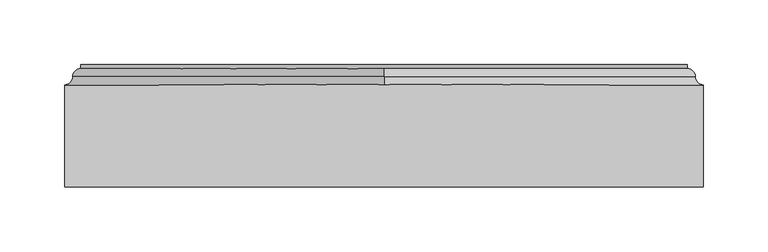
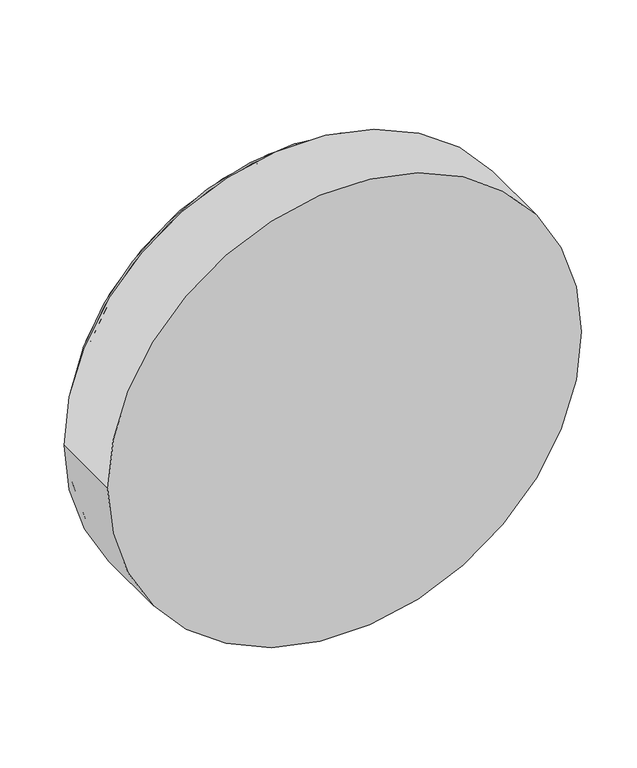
"""IFC4 building model written with IfcOpenShell, lengths in millimetres: proxy geometry, CAMBRIDGE^TABLE 3_2 BASE BOAT-PLINTH SOLID."""

import ifcopenshell
import ifcopenshell.guid

model = None  # the IFC model being written
_history = None  # IfcOwnerHistory: only IFC2X3 demands one
_inside = {}  # id of a spatial element -> (the spatial element, [elements in it])
_under = {}  # id of a project, library or spatial element -> (it, [spatial elements below it])
_declared = {}  # id of a project -> (the project, [libraries it declares])
_typed = {}  # id of a type object -> (the type object, [elements of that type])
_made_of = {}  # id of a material, layer set ... -> (it, [elements and type objects made of it])


def new_model(schema):
    """Start an empty IFC model of exactly this schema.

    Asked for "IFC4X3", IfcOpenShell would pick the latest addendum, in which some entities
    have other attributes; the version numbers below select the first issue.
    IFC2X3 requires an IfcOwnerHistory on every rooted entity: one is made here for all.
    """
    global model, _history
    if schema == "IFC4X3":
        model = ifcopenshell.file(schema_version=(4, 3, 0, 0))
    else:
        model = ifcopenshell.file(schema=schema)
    _inside.clear()
    _under.clear()
    _declared.clear()
    _typed.clear()
    _made_of.clear()
    _history = None
    if model.schema == "IFC2X3":
        org = make("IfcOrganization", Name="unknown")
        user = make(
            "IfcPersonAndOrganization",
            ThePerson=make("IfcPerson", FamilyName="unknown"),
            TheOrganization=org,
        )
        app = make(
            "IfcApplication",
            ApplicationDeveloper=org,
            Version="unknown",
            ApplicationFullName="unknown",
            ApplicationIdentifier="unknown",
        )
        _history = make(
            "IfcOwnerHistory",
            OwningUser=user,
            OwningApplication=app,
            ChangeAction="ADDED",
            CreationDate=0,
        )
    return model


def make(cls, **values):
    """One entity of the class cls with the attributes given. An attribute that is None is left unset."""
    return model.create_entity(
        cls, **{name: value for name, value in values.items() if value is not None}
    )


def rooted(cls, **values):
    """An entity with a GlobalId (a new one), such as an element, a storey or a relation."""
    return make(cls, GlobalId=ifcopenshell.guid.new(), OwnerHistory=_history, **values)


def si_unit(unit_type, name, prefix=None):
    """IfcSIUnit, for example si_unit("LENGTHUNIT", "METRE", prefix="MILLI")."""
    return make("IfcSIUnit", UnitType=unit_type, Prefix=prefix, Name=name)


def assignment(units):
    """IfcUnitAssignment: the units of a project."""
    return None if units is None else make("IfcUnitAssignment", Units=units)


def point(xyz):
    """IfcCartesianPoint."""
    return None if xyz is None else make("IfcCartesianPoint", Coordinates=xyz)


def direction(xyz):
    """IfcDirection."""
    return None if xyz is None else make("IfcDirection", DirectionRatios=xyz)


def frame(location, z_axis=None, x_axis=None):
    """IfcAxis2Placement3D, a coordinate frame: its origin and axes. An axis left out is left unset."""
    return make(
        "IfcAxis2Placement3D",
        Location=point(location),
        Axis=direction(z_axis),
        RefDirection=direction(x_axis),
    )


def origin():
    """The frame at (0, 0, 0) with its axes left unset."""
    return frame((0.0, 0.0, 0.0))


def place(relative_to, where):
    """IfcLocalPlacement: puts the frame where relative to a parent placement (None: the world)."""
    return make(
        "IfcLocalPlacement", PlacementRelTo=relative_to, RelativePlacement=where
    )


def context(
    kind, dimensions, precision=None, world=None, true_north=None, identifier=None
):
    """IfcGeometricRepresentationContext, for example the 3D "Model" context."""
    return make(
        "IfcGeometricRepresentationContext",
        ContextIdentifier=identifier,
        ContextType=kind,
        CoordinateSpaceDimension=dimensions,
        Precision=precision,
        WorldCoordinateSystem=world,
        TrueNorth=true_north,
    )


def project(units=None, contexts=None):
    """IfcProject with its units and contexts."""
    return rooted(
        "IfcProject",
        Name="project",
        RepresentationContexts=contexts,
        UnitsInContext=assignment(units),
    )


def spatial(cls, under=None, at=None, **own):
    """A site, building, storey or space (cls), placed at a placement, below another one or the project."""
    s = rooted(cls, ObjectPlacement=at, **own)
    if under is not None:
        _under.setdefault(under.id(), (under, []))[1].append(s)
    return s


def circle_curve(where, radius):
    """IfcCircle in the frame where."""
    return make("IfcCircle", Position=where, Radius=radius)


def ellipse_curve(where, semi_axis1, semi_axis2):
    """IfcEllipse in the frame where."""
    return make(
        "IfcEllipse", Position=where, SemiAxis1=semi_axis1, SemiAxis2=semi_axis2
    )


def trimmed(basis, trim1, trim2, sense, master):
    """IfcTrimmedCurve: the piece of a basis curve between two trims."""
    return make(
        "IfcTrimmedCurve",
        BasisCurve=basis,
        Trim1=trim1,
        Trim2=trim2,
        SenseAgreement=sense,
        MasterRepresentation=master,
    )


def shape(context_of_items, identifier, shape_type, items):
    """IfcShapeRepresentation: the items that make up one representation, for example the "Body"."""
    return make(
        "IfcShapeRepresentation",
        ContextOfItems=context_of_items,
        RepresentationIdentifier=identifier,
        RepresentationType=shape_type,
        Items=items,
    )


def source(mapping_origin, context_of_items, identifier, shape_type, items):
    """IfcRepresentationMap: a shape defined once, which mapped items show again and again."""
    return make(
        "IfcRepresentationMap",
        MappingOrigin=mapping_origin,
        MappedRepresentation=shape(context_of_items, identifier, shape_type, items),
    )


def transform(
    local_origin,
    x_axis=None,
    y_axis=None,
    z_axis=None,
    scale=None,
    scale2=None,
    scale3=None,
    uniform=True,
):
    """IfcCartesianTransformationOperator3D, or its non-uniform kind. x_axis, y_axis, z_axis: its Axis1, 2, 3."""
    if uniform:
        return make(
            "IfcCartesianTransformationOperator3D",
            Axis1=direction(x_axis),
            Axis2=direction(y_axis),
            LocalOrigin=point(local_origin),
            Scale=scale,
            Axis3=direction(z_axis),
        )
    return make(
        "IfcCartesianTransformationOperator3DnonUniform",
        Axis1=direction(x_axis),
        Axis2=direction(y_axis),
        LocalOrigin=point(local_origin),
        Scale=scale,
        Axis3=direction(z_axis),
        Scale2=scale2,
        Scale3=scale3,
    )


def mapped(mapping_source, mapping_target):
    """IfcMappedItem: shows the shape of a source again, moved by a transform."""
    return make(
        "IfcMappedItem", MappingSource=mapping_source, MappingTarget=mapping_target
    )


def made_of(thing, what):
    """Note that an element or type object is made of a material, layer set ...; save() writes the relation."""
    if what is not None:
        _made_of.setdefault(what.id(), (what, []))[1].append(thing)
    return thing


def element(
    cls,
    number,
    at=None,
    inside=None,
    cuts=None,
    type_object=None,
    material=None,
    context=None,
    identifier="Body",
    shape_type=None,
    held_by="IfcProductDefinitionShape",
    body=None,
    shapes=None,
    **own,
):
    """One element of the class cls, such as IfcWall. Its Tag is "e" and its number.

    at: its placement. inside: the storey or other place that contains it. cuts: it is an
    opening in that element (IfcRelVoidsElement). A single representation is given by context,
    identifier, shape_type and body (its items); several are given by shapes. held_by: the class
    of the entity that holds the representations. save() writes the other relations.
    """
    e = rooted(cls, Tag="e%d" % number, ObjectPlacement=at, **own)
    if body is not None:
        shapes = [shape(context, identifier, shape_type, body)]
    if shapes is not None:
        e.Representation = make(held_by, Representations=shapes)
    if inside is not None:
        _inside.setdefault(inside.id(), (inside, []))[1].append(e)
    if cuts is not None:
        rooted(
            "IfcRelVoidsElement", RelatingBuildingElement=cuts, RelatedOpeningElement=e
        )
    if type_object is not None:
        _typed.setdefault(type_object.id(), (type_object, []))[1].append(e)
    return made_of(e, material)


def aggregate(whole, parts):
    """IfcRelAggregates: a whole, such as a stair, and the parts it consists of."""
    return rooted("IfcRelAggregates", RelatingObject=whole, RelatedObjects=parts)


def save(model, path):
    """Write the relations noted so far, then the file.

    IfcRelAggregates (storeys below a building ...), IfcRelContainedInSpatialStructure (elements
    in a storey), IfcRelDefinesByType, IfcRelAssociatesMaterial and IfcRelDeclares: one each for
    every whole, place, type object, material and project.
    """
    for whole, parts in _under.values():
        aggregate(whole, parts)
    for where, things in _inside.values():
        rooted(
            "IfcRelContainedInSpatialStructure",
            RelatedElements=things,
            RelatingStructure=where,
        )
    for kind, things in _typed.values():
        rooted("IfcRelDefinesByType", RelatedObjects=things, RelatingType=kind)
    for what, things in _made_of.values():
        rooted("IfcRelAssociatesMaterial", RelatedObjects=things, RelatingMaterial=what)
    for by, libraries in _declared.values():
        rooted("IfcRelDeclares", RelatingContext=by, RelatedDefinitions=libraries)
    model.write(path)


def plane_surface(at):
    """IfcPlane: the flat surface through the origin of the frame at, square to its z axis."""
    return make("IfcPlane", Position=at)


def cylinder_surface(at, radius):
    """IfcCylindricalSurface: all points at the distance radius from the z axis of the frame at."""
    return make("IfcCylindricalSurface", Position=at, Radius=radius)


def revolved_surface(curve, axis_point, axis_direction):
    """IfcSurfaceOfRevolution: the curve turned about the line through axis_point along axis_direction."""
    return make(
        "IfcSurfaceOfRevolution",
        SweptCurve=make("IfcArbitraryOpenProfileDef", ProfileType="CURVE", Curve=curve),
        AxisPosition=make("IfcAxis1Placement", Location=point(axis_point), Axis=direction(axis_direction)),
    )


def advanced_brep(points, edges, surfaces, faces):
    """IfcAdvancedBrep: a solid bounded by faces that lie on surfaces and meet in shared edges.

    An edge is (start, end): straight between two places in points (the first is 0);
    or (start, end, curve); or (start, end, curve, False) where it runs against its curve.
    A face is (place in surfaces, loops), or (place, loops, False) where it looks against
    its surface's normal. A loop lists edges by number (the first is 1), with a minus sign
    where the edge is run from its end to its start. The first loop is the outer one.
    """
    corners = [point(p) for p in points]
    vertices = [make("IfcVertexPoint", VertexGeometry=c) for c in corners]
    made = []
    for start, end, *more in edges:
        made.append(
            make(
                "IfcEdgeCurve",
                EdgeStart=vertices[start],
                EdgeEnd=vertices[end],
                EdgeGeometry=more[0] if more else make("IfcPolyline", Points=[corners[start], corners[end]]),
                SameSense=more[1] if len(more) > 1 else True,
            )
        )
    hull = []
    for where, loops, *sense in faces:
        bounds = []
        for j, loop in enumerate(loops):
            ring = [make("IfcOrientedEdge", EdgeElement=made[abs(k) - 1], Orientation=k > 0) for k in loop]
            bounds.append(
                make(
                    "IfcFaceOuterBound" if j == 0 else "IfcFaceBound",
                    Bound=make("IfcEdgeLoop", EdgeList=ring),
                    Orientation=True,
                )
            )
        hull.append(make("IfcAdvancedFace", Bounds=bounds, FaceSurface=surfaces[where], SameSense=sense[0] if sense else True))
    return make("IfcAdvancedBrep", Outer=make("IfcClosedShell", CfsFaces=hull))


def generic_models_16b2119f(model_context):
    return source(origin(), model_context, "Body", "AdvancedBrep", [
        advanced_brep(
        [(-514.35, -631.825, -685.8), (-514.35, -711.2, -685.8), (-1009.65, -711.2, -685.8), (-1009.65, -631.825, -685.8), (-762.0, -631.825, -933.45), (-762.0, -631.825, -438.15), (-762.0, -625.475, -444.5), (-762.0, -625.475, -927.1), (-762.0, -619.125, -450.85), (-520.7, -625.475, -685.8), (-762.0, -619.125, -920.75), (-527.05, -619.125, -685.8), (-527.05, -615.95, -685.8), (-996.95, -619.125, -685.8), (-996.95, -615.95, -685.8)],
        [
            (0, 1),
            (1, 2, circle_curve(frame((-762.0, -711.2, -685.8), z_axis=(0.0, 1.0, 0.0), x_axis=(1.0, 0.0, 0.0)), 247.65)),
            (2, 3),
            (3, 4, circle_curve(frame((-762.0, -631.825, -685.8), z_axis=(0.0, -1.0, 0.0), x_axis=(1.0, 0.0, 0.0)), 247.65)),
            (4, 0, circle_curve(frame((-762.0, -631.825, -685.8), z_axis=(0.0, -1.0, 0.0), x_axis=(1.0, 0.0, 0.0)), 247.65)),
            (5, 6, circle_curve(frame((-762.0, -625.475, -438.15), z_axis=(1.0, 0.0, 0.0), x_axis=(0.0, 0.0, 1.0)), 6.35)),
            (6, 7, circle_curve(frame((-762.0, -625.475, -685.8), z_axis=(0.0, -1.0, 0.0), x_axis=(0.0, 0.0, -1.0)), 241.3)),
            (7, 4, circle_curve(frame((-762.0, -625.475, -933.45), z_axis=(1.0, 0.0, 0.0), x_axis=(0.0, 0.0, -1.0)), 6.35)),
            (3, 5, circle_curve(frame((-762.0, -631.825, -685.8), z_axis=(0.0, 1.0, 0.0), x_axis=(0.0, 0.0, -1.0)), 247.65)),
            (8, 6, circle_curve(frame((-762.0, -625.475, -450.85), z_axis=(1.0, 0.0, 0.0), x_axis=(0.0, 0.0, 1.0)), 6.35)),
            (6, 9, circle_curve(frame((-762.0, -625.475, -685.8), z_axis=(0.0, 1.0, 0.0), x_axis=(0.0, 0.0, 1.0)), 241.3)),
            (9, 7, circle_curve(frame((-762.0, -625.475, -685.8), z_axis=(0.0, 1.0, 0.0), x_axis=(0.0, 0.0, 1.0)), 241.3)),
            (7, 10, circle_curve(frame((-762.0, -625.475, -920.75), z_axis=(1.0, 0.0, 0.0), x_axis=(0.0, 0.0, -1.0)), 6.35)),
            (10, 11, circle_curve(frame((-762.0, -619.125, -685.8), z_axis=(0.0, -1.0, 0.0), x_axis=(0.0, 0.0, 1.0)), 234.95)),
            (11, 8, circle_curve(frame((-762.0, -619.125, -685.8), z_axis=(0.0, -1.0, 0.0), x_axis=(0.0, 0.0, 1.0)), 234.95)),
            (12, 11),
            (10, 13, circle_curve(frame((-762.0, -619.125, -685.8), z_axis=(0.0, 1.0, 0.0), x_axis=(1.0, 0.0, 0.0)), 234.95)),
            (13, 14),
            (14, 12, circle_curve(frame((-762.0, -615.95, -685.8), z_axis=(0.0, -1.0, 0.0), x_axis=(1.0, 0.0, 0.0)), 234.95)),
            (1, 2, circle_curve(frame((-762.0, -711.2, -685.8), z_axis=(0.0, -1.0, 0.0), x_axis=(1.0, 0.0, 0.0)), 247.65)),
            (14, 12, circle_curve(frame((-762.0, -615.95, -685.8), z_axis=(0.0, 1.0, 0.0), x_axis=(1.0, 0.0, 0.0)), 234.95)),
            (13, 8, circle_curve(frame((-762.0, -619.125, -685.8), z_axis=(0.0, 1.0, 0.0), x_axis=(1.0, 0.0, 0.0)), 234.95)),
            (5, 0, circle_curve(frame((-762.0, -631.825, -685.8), z_axis=(0.0, 1.0, 0.0), x_axis=(0.0, 0.0, 1.0)), 247.65)),
        ],
        [
            cylinder_surface(frame((-762.0, -635.0, -685.8), z_axis=(0.0, -1.0, 0.0), x_axis=(1.0, 0.0, 0.0)), 247.65),
            revolved_surface(trimmed(ellipse_curve(frame((-762.0, -625.475, -933.45), z_axis=(-1.0, 0.0, 0.0), x_axis=(0.0, 0.0, -1.0)), 6.35, 6.35), [point((-762.0, -631.825, -933.45))], [point((-762.0, -625.475, -927.1))], True, "CARTESIAN"), (-762.0, -625.475, -685.8), (0.0, 1.0, 0.0)),
            revolved_surface(trimmed(ellipse_curve(frame((-762.0, -625.475, -450.85), z_axis=(-1.0, 0.0, 0.0), x_axis=(0.0, 0.0, 1.0)), 6.35, 6.35), [point((-762.0, -625.475, -444.5))], [point((-762.0, -619.125, -450.85))], True, "CARTESIAN"), (-762.0, -625.475, -685.8), (0.0, 1.0, 0.0)),
            cylinder_surface(frame((-762.0, -617.5375, -685.8), z_axis=(0.0, 1.0, 0.0), x_axis=(1.0, 0.0, 0.0)), 234.95),
            plane_surface(frame((-762.0, -711.2, -685.8), z_axis=(0.0, -1.0, 0.0), x_axis=(0.0, 0.0, -1.0))),
            plane_surface(frame((-762.0, -615.95, -685.8), z_axis=(0.0, 1.0, 0.0), x_axis=(0.0, 0.0, -1.0))),
            revolved_surface(trimmed(ellipse_curve(frame((-762.0, -625.475, -920.75), z_axis=(1.0, 0.0, 0.0), x_axis=(0.0, 0.0, -1.0)), 6.35, 6.35), [point((-762.0, -625.475, -927.1))], [point((-762.0, -619.125, -920.75))], True, "CARTESIAN"), (-762.0, -625.475, -685.8), (0.0, 1.0, 0.0)),
            revolved_surface(trimmed(ellipse_curve(frame((-762.0, -625.475, -438.15), z_axis=(1.0, 0.0, 0.0), x_axis=(0.0, 0.0, 1.0)), 6.35, 6.35), [point((-762.0, -631.825, -438.15))], [point((-762.0, -625.475, -444.5))], True, "CARTESIAN"), (-762.0, -625.475, -685.8), (0.0, 1.0, 0.0)),
        ],
        [
            (0, [[1, 2, 3, 4, 5]]),
            (1, [[6, 7, 8, -4, 9]]),
            (2, [[10, 11, 12, 13, 14, 15]]),
            (3, [[16, -14, 17, 18, 19]]),
            (4, [[20, -2]]),
            (5, [[-19, 21]]),
            (3, [[-16, -21, -18, 22, -15]]),
            (6, [[-10, -22, -17, -13, -7]]),
            (7, [[-6, 23, -5, -8, -12, -11]]),
            (0, [[-1, -23, -9, -3, -20]]),
        ],
    ),
    ])


if __name__ == "__main__":
    model = new_model("IFC4")
    model_context = context("Model", 3, world=origin())
    ifc_project = project(units=[si_unit("LENGTHUNIT", "METRE", prefix="MILLI")], contexts=[model_context])
    site = spatial("IfcSite", under=ifc_project)
    building = spatial("IfcBuilding", under=site)
    placement = place(None, origin())
    generic_models_shape = generic_models_16b2119f(model_context)
    element("IfcBuildingElementProxy", 1, Name="CAMBRIDGE^TABLE 3_2 BASE BOAT-PLINTH SOLID", ObjectType="CAMBRIDGE^TABLE 3_2 BASE BOAT-PLINTH SOLID", at=placement, inside=building, context=model_context, shape_type="MappedRepresentation", body=[
        mapped(generic_models_shape, transform((0.0, 0.0, 0.0), x_axis=(1.0, 0.0, 0.0), y_axis=(0.0, 1.0, 0.0), z_axis=(0.0, 0.0, 1.0))),
    ])
    save(model, "model.ifc")
